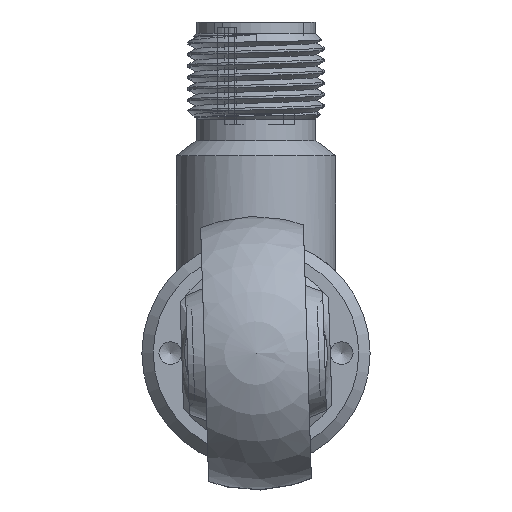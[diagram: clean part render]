
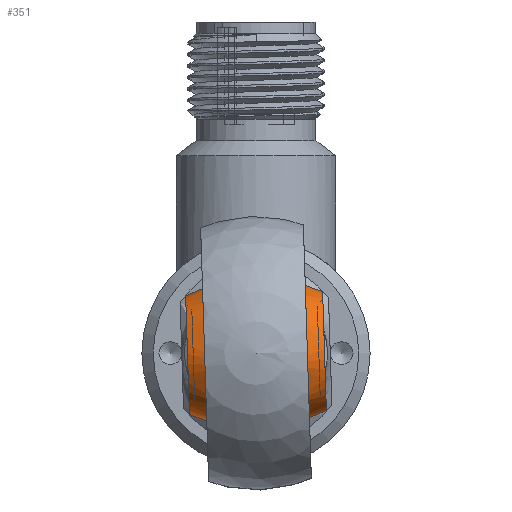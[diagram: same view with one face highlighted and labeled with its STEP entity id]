
A CAD part, left-side view. The second image highlights one B-rep face of the part: STEP entity #351.
In plain terms, the highlighted free-form (B-spline) face has degree [3, 3] with [4, 7] control points.
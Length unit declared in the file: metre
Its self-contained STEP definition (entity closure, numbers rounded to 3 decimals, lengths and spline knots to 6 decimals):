
#351 = ADVANCED_FACE( '', ( #712, #713 ), #714, .T. );
#712 = FACE_OUTER_BOUND( '', #2335, .T. );
#713 = FACE_OUTER_BOUND( '', #2336, .T. );
#714 = ( B_SPLINE_SURFACE( 3, 3, ( ( #2338, #2339, #2340, #2341, #2342, #2343, #2344 ), ( #2345, #2346, #2347, #2348, #2349, #2350, #2351 ), ( #2352, #2353, #2354, #2355, #2356, #2357, #2358 ), ( #2359, #2360, #2361, #2362, #2363, #2364, #2365 ) ), .UNSPECIFIED., .F., .T., .F. )B_SPLINE_SURFACE_WITH_KNOTS( ( 4, 4 ), ( 4, 3, 4 ), ( 0., 6.283185 ), ( -0.582914, 0., 0.582914 ), .UNSPECIFIED. )RATIONAL_B_SPLINE_SURFACE( ( ( 1., 0.333, 0.333, 1., 0.333, 0.333, 1. ), ( 0.89, 0.297, 0.297, 0.89, 0.297, 0.297, 0.89 ), ( 0.89, 0.297, 0.297, 0.89, 0.297, 0.297, 0.89 ), ( 1., 0.333, 0.333, 1., 0.333, 0.333, 1. ) ) )BOUNDED_SURFACE(  )REPRESENTATION_ITEM( '' )GEOMETRIC_REPRESENTATION_ITEM(  )SURFACE(  ) );
#2335 = EDGE_LOOP( '', ( #3032 ) );
#2336 = EDGE_LOOP( '', ( #3033 ) );
#2338 = CARTESIAN_POINT( '', ( -0.724857, 0.006021, 0.00058 ) );
#2339 = CARTESIAN_POINT( '', ( -0.723318, 0.005697, -0.0097 ) );
#2340 = CARTESIAN_POINT( '', ( -0.733603, 0.005648, -0.011239 ) );
#2341 = CARTESIAN_POINT( '', ( -0.735143, 0.005973, -0.000959 ) );
#2342 = CARTESIAN_POINT( '', ( -0.736682, 0.006297, 0.009322 ) );
#2343 = CARTESIAN_POINT( '', ( -0.726397, 0.006346, 0.01086 ) );
#2344 = CARTESIAN_POINT( '', ( -0.724857, 0.006021, 0.00058 ) );
#2345 = CARTESIAN_POINT( '', ( -0.72241, 0.002282, 0.001065 ) );
#2346 = CARTESIAN_POINT( '', ( -0.720138, 0.001803, -0.014107 ) );
#2347 = CARTESIAN_POINT( '', ( -0.735318, 0.001732, -0.016378 ) );
#2348 = CARTESIAN_POINT( '', ( -0.73759, 0.00221, -0.001206 ) );
#2349 = CARTESIAN_POINT( '', ( -0.739862, 0.002689, 0.013965 ) );
#2350 = CARTESIAN_POINT( '', ( -0.724682, 0.002761, 0.016236 ) );
#2351 = CARTESIAN_POINT( '', ( -0.72241, 0.002282, 0.001065 ) );
#2352 = CARTESIAN_POINT( '', ( -0.72241, -0.00221, 0.001206 ) );
#2353 = CARTESIAN_POINT( '', ( -0.720138, -0.002689, -0.013965 ) );
#2354 = CARTESIAN_POINT( '', ( -0.735318, -0.002761, -0.016236 ) );
#2355 = CARTESIAN_POINT( '', ( -0.73759, -0.002282, -0.001065 ) );
#2356 = CARTESIAN_POINT( '', ( -0.739862, -0.001803, 0.014107 ) );
#2357 = CARTESIAN_POINT( '', ( -0.724682, -0.001732, 0.016378 ) );
#2358 = CARTESIAN_POINT( '', ( -0.72241, -0.00221, 0.001206 ) );
#2359 = CARTESIAN_POINT( '', ( -0.724857, -0.005973, 0.000959 ) );
#2360 = CARTESIAN_POINT( '', ( -0.723318, -0.006297, -0.009322 ) );
#2361 = CARTESIAN_POINT( '', ( -0.733603, -0.006346, -0.01086 ) );
#2362 = CARTESIAN_POINT( '', ( -0.735143, -0.006021, -0.00058 ) );
#2363 = CARTESIAN_POINT( '', ( -0.736682, -0.005697, 0.0097 ) );
#2364 = CARTESIAN_POINT( '', ( -0.726397, -0.005648, 0.011239 ) );
#2365 = CARTESIAN_POINT( '', ( -0.724857, -0.005973, 0.000959 ) );
#3032 = ORIENTED_EDGE( '', *, *, #3418, .F. );
#3033 = ORIENTED_EDGE( '', *, *, #3451, .T. );
#3418 = EDGE_CURVE( '', #4092, #4092, #4093, .T. );
#3451 = EDGE_CURVE( '', #4150, #4150, #4151, .T. );
#4092 = VERTEX_POINT( '', #8025 );
#4093 = CIRCLE( '', #8026, 0.0052 );
#4150 = VERTEX_POINT( '', #8259 );
#4151 = CIRCLE( '', #8260, 0.0052 );
#8025 = CARTESIAN_POINT( '', ( -0.724857, 0.006021, 0.00058 ) );
#8026 = AXIS2_PLACEMENT_3D( '', #9064, #9065, #9066 );
#8259 = CARTESIAN_POINT( '', ( -0.724857, -0.005973, 0.000959 ) );
#8260 = AXIS2_PLACEMENT_3D( '', #9115, #9116, #9117 );
#9064 = CARTESIAN_POINT( '', ( -0.73, 0.005997, -0.000189 ) );
#9065 = DIRECTION( '', ( 0., 1., -0.032 ) );
#9066 = DIRECTION( '', ( 0.989, 0.005, 0.148 ) );
#9115 = CARTESIAN_POINT( '', ( -0.73, -0.005997, 0.000189 ) );
#9116 = DIRECTION( '', ( 0., 1., -0.032 ) );
#9117 = DIRECTION( '', ( 0.989, 0.005, 0.148 ) );
